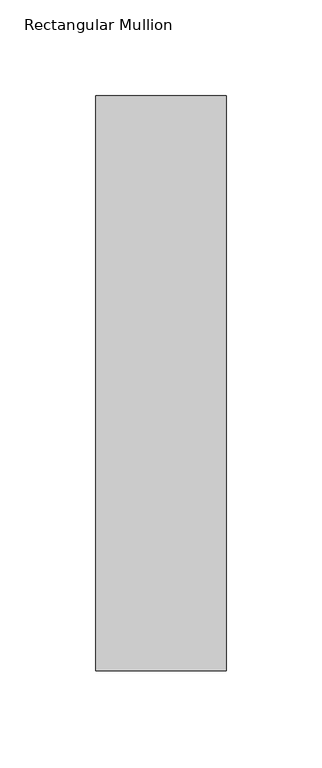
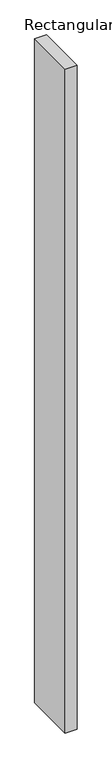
"""IFC4 building model written with IfcOpenShell, lengths in millimetres: member geometry, Rectangular Mullion : DucoSun Cubic Design louvre 300."""

from ifc_helpers import new_model, si_unit, frame, origin, place, context, project, spatial, polyline, outline, extrude, source, transform, mapped, element, save


def rectangular_mullion_7df8d016(model_context):
    return source(origin(), model_context, "Body", "SweptSolid", [
        extrude(outline(polyline([(34.0, -300.0), (-34.0, -300.0), (-34.0, 0.0), (34.0, 0.0), (34.0, -300.0)])), frame((0.0, 0.0, -4000.0), z_axis=(0.0, 0.0, 1.0), x_axis=(1.0, 0.0, 0.0)), (0.0, 0.0, 1.0), 4000.0),
    ])


if __name__ == "__main__":
    model = new_model("IFC4")
    model_context = context("Model", 3, world=origin())
    ifc_project = project(units=[si_unit("LENGTHUNIT", "METRE", prefix="MILLI")], contexts=[model_context])
    site = spatial("IfcSite", under=ifc_project)
    building = spatial("IfcBuilding", under=site)
    placement = place(None, origin())
    rectangular_mullion_shape = rectangular_mullion_7df8d016(model_context)
    element("IfcMember", 1, ObjectType="Rectangular Mullion : DucoSun Cubic Design louvre 300", at=placement, inside=building, context=model_context, shape_type="MappedRepresentation", body=[
        mapped(rectangular_mullion_shape, transform((0.0, 0.0, 0.0), x_axis=(1.0, 0.0, 0.0), y_axis=(0.0, 1.0, 0.0), z_axis=(0.0, 0.0, 1.0))),
    ])
    save(model, "model.ifc")
